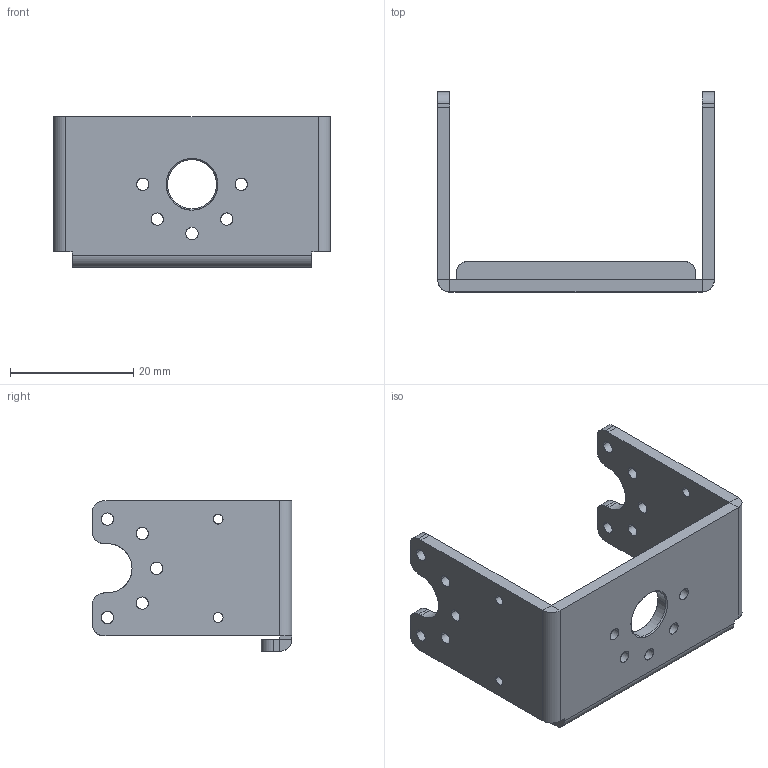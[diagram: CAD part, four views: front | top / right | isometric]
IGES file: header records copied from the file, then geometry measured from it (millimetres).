
Global section: file name: C:\Users\Knabe\Documents\Classes\8 Semester 8\DARwIn\Deliverables\DARwIn OP\DARwIn OP Part Files\OP 3D CAD Files\3D IGS\2_FR07_H104.igs; native system: NX V7.0; preprocessor: SIEMENS PLM Software NX 7.0; date: 20110525.180119; units: millimetre
Bounding box: 45 x 32.5 x 24.5 mm (x, y, z)
Surface area: 5436.5 mm2 (no closed solid volume)
Topology: 0 solids, 0 shells, 99 faces, 800 edges, 800 vertices
Faces by surface type: bspline 99
